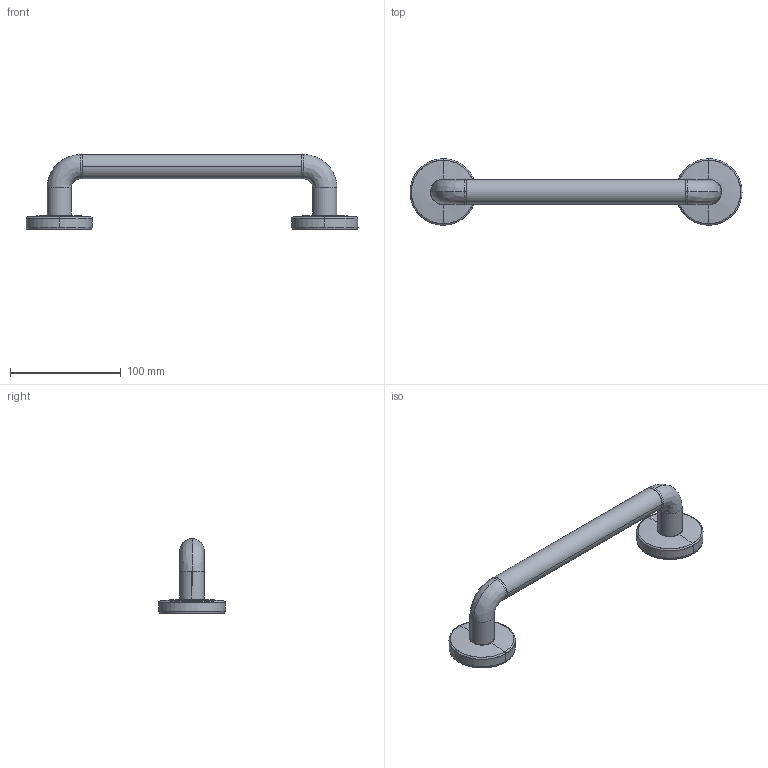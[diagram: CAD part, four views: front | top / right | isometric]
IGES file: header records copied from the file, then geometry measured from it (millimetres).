
Start section: SolidWorks IGES file using analytic representation for surfaces
Global section: file name: G:\Projects\New project\For Marketing\IGS\IGS\2015-11-20\2900210VW.IGS; native system: SolidWorks 2010; preprocessor: SolidWorks 2010; author: weijuan; date: 151119.141522; units: inch
Bounding box: 300 x 60 x 67.5 mm (x, y, z)
Surface area: 47558.8 mm2 (no closed solid volume)
Topology: 0 solids, 0 shells, 385 faces, 3073 edges, 3073 vertices
Faces by surface type: revolution 226, bspline 159
